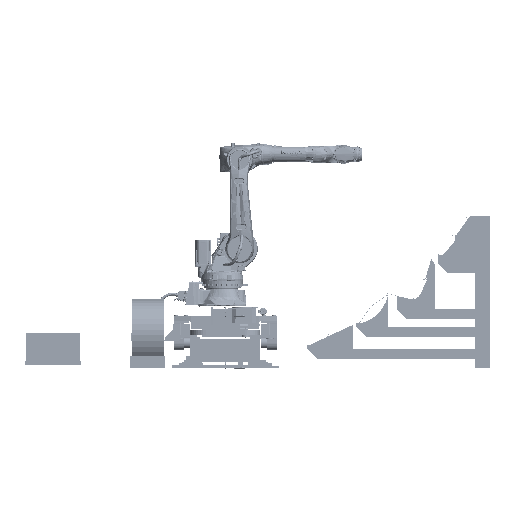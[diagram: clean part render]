
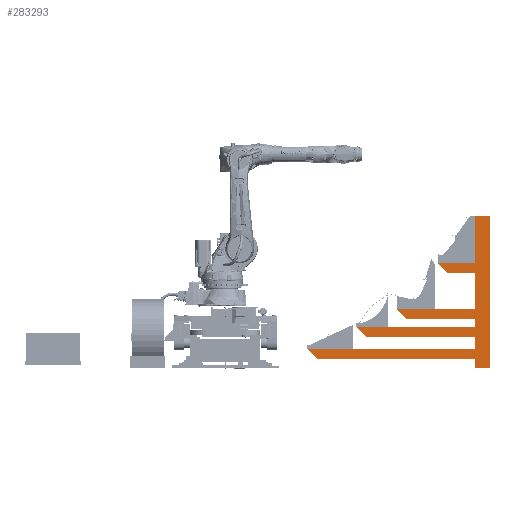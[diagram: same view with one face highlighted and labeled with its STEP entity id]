
A CAD part, front view. The second image highlights one B-rep face of the part: STEP entity #283293.
In plain terms, the highlighted planar face has unit normal (0, -1, 0).
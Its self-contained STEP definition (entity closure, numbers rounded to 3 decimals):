
#44590=LINE('',#889130,#60908);
#44593=LINE('',#889136,#60911);
#44596=LINE('',#889142,#60914);
#44599=LINE('',#889148,#60917);
#44602=LINE('',#889154,#60920);
#44605=LINE('',#889160,#60923);
#44608=LINE('',#889166,#60926);
#44611=LINE('',#889172,#60929);
#44614=LINE('',#889178,#60932);
#44617=LINE('',#889184,#60935);
#44620=LINE('',#889190,#60938);
#44623=LINE('',#889196,#60941);
#44626=LINE('',#889202,#60944);
#44629=LINE('',#889208,#60947);
#44632=LINE('',#889214,#60950);
#44635=LINE('',#889220,#60953);
#44638=LINE('',#889226,#60956);
#44641=LINE('',#889232,#60959);
#44644=LINE('',#889238,#60962);
#44647=LINE('',#889242,#60965);
#60908=VECTOR('',#374393,10.);
#60911=VECTOR('',#374398,10.);
#60914=VECTOR('',#374403,10.);
#60917=VECTOR('',#374408,10.);
#60920=VECTOR('',#374413,10.);
#60923=VECTOR('',#374418,10.);
#60926=VECTOR('',#374423,10.);
#60929=VECTOR('',#374428,10.);
#60932=VECTOR('',#374433,10.);
#60935=VECTOR('',#374438,10.);
#60938=VECTOR('',#374443,10.);
#60941=VECTOR('',#374448,10.);
#60944=VECTOR('',#374453,10.);
#60947=VECTOR('',#374458,10.);
#60950=VECTOR('',#374463,10.);
#60953=VECTOR('',#374468,10.);
#60956=VECTOR('',#374473,10.);
#60959=VECTOR('',#374478,10.);
#60962=VECTOR('',#374483,10.);
#60965=VECTOR('',#374488,10.);
#80371=FACE_OUTER_BOUND('',#97787,.T.);
#97787=EDGE_LOOP('',(#263924,#263925,#263926,#263927,#263928,#263929,#263930,
#263931,#263932,#263933,#263934,#263935,#263936,#263937,#263938,#263939,
#263940,#263941,#263942,#263943));
#135656=VERTEX_POINT('',#889127);
#135657=VERTEX_POINT('',#889129);
#135659=VERTEX_POINT('',#889135);
#135661=VERTEX_POINT('',#889141);
#135663=VERTEX_POINT('',#889147);
#135665=VERTEX_POINT('',#889153);
#135667=VERTEX_POINT('',#889159);
#135669=VERTEX_POINT('',#889165);
#135671=VERTEX_POINT('',#889171);
#135673=VERTEX_POINT('',#889177);
#135675=VERTEX_POINT('',#889183);
#135677=VERTEX_POINT('',#889189);
#135679=VERTEX_POINT('',#889195);
#135681=VERTEX_POINT('',#889201);
#135683=VERTEX_POINT('',#889207);
#135685=VERTEX_POINT('',#889213);
#135687=VERTEX_POINT('',#889219);
#135689=VERTEX_POINT('',#889225);
#135691=VERTEX_POINT('',#889231);
#135693=VERTEX_POINT('',#889237);
#178386=EDGE_CURVE('',#135657,#135656,#44590,.T.);
#178389=EDGE_CURVE('',#135659,#135657,#44593,.T.);
#178392=EDGE_CURVE('',#135661,#135659,#44596,.T.);
#178395=EDGE_CURVE('',#135663,#135661,#44599,.T.);
#178398=EDGE_CURVE('',#135665,#135663,#44602,.T.);
#178401=EDGE_CURVE('',#135667,#135665,#44605,.T.);
#178404=EDGE_CURVE('',#135669,#135667,#44608,.T.);
#178407=EDGE_CURVE('',#135671,#135669,#44611,.T.);
#178410=EDGE_CURVE('',#135673,#135671,#44614,.T.);
#178413=EDGE_CURVE('',#135675,#135673,#44617,.T.);
#178416=EDGE_CURVE('',#135677,#135675,#44620,.T.);
#178419=EDGE_CURVE('',#135679,#135677,#44623,.T.);
#178422=EDGE_CURVE('',#135681,#135679,#44626,.T.);
#178425=EDGE_CURVE('',#135683,#135681,#44629,.T.);
#178428=EDGE_CURVE('',#135685,#135683,#44632,.T.);
#178431=EDGE_CURVE('',#135687,#135685,#44635,.T.);
#178434=EDGE_CURVE('',#135689,#135687,#44638,.T.);
#178437=EDGE_CURVE('',#135691,#135689,#44641,.T.);
#178440=EDGE_CURVE('',#135693,#135691,#44644,.T.);
#178443=EDGE_CURVE('',#135656,#135693,#44647,.T.);
#263924=ORIENTED_EDGE('',*,*,#178443,.T.);
#263925=ORIENTED_EDGE('',*,*,#178440,.T.);
#263926=ORIENTED_EDGE('',*,*,#178437,.T.);
#263927=ORIENTED_EDGE('',*,*,#178434,.T.);
#263928=ORIENTED_EDGE('',*,*,#178431,.T.);
#263929=ORIENTED_EDGE('',*,*,#178428,.T.);
#263930=ORIENTED_EDGE('',*,*,#178425,.T.);
#263931=ORIENTED_EDGE('',*,*,#178422,.T.);
#263932=ORIENTED_EDGE('',*,*,#178419,.T.);
#263933=ORIENTED_EDGE('',*,*,#178416,.T.);
#263934=ORIENTED_EDGE('',*,*,#178413,.T.);
#263935=ORIENTED_EDGE('',*,*,#178410,.T.);
#263936=ORIENTED_EDGE('',*,*,#178407,.T.);
#263937=ORIENTED_EDGE('',*,*,#178404,.T.);
#263938=ORIENTED_EDGE('',*,*,#178401,.T.);
#263939=ORIENTED_EDGE('',*,*,#178398,.T.);
#263940=ORIENTED_EDGE('',*,*,#178395,.T.);
#263941=ORIENTED_EDGE('',*,*,#178392,.T.);
#263942=ORIENTED_EDGE('',*,*,#178389,.T.);
#263943=ORIENTED_EDGE('',*,*,#178386,.T.);
#268523=PLANE('',#308430);
#283293=ADVANCED_FACE('',(#80371),#268523,.T.);
#308430=AXIS2_PLACEMENT_3D('',#889244,#374491,#374492);
#374393=DIRECTION('',(0.707,0.,-0.707));
#374398=DIRECTION('',(-1.,0.,0.));
#374403=DIRECTION('',(0.,0.,-1.));
#374408=DIRECTION('',(1.,0.,0.));
#374413=DIRECTION('',(0.707,0.,-0.707));
#374418=DIRECTION('',(-1.,0.,0.));
#374423=DIRECTION('',(0.,0.,-1.));
#374428=DIRECTION('',(-1.,0.,0.));
#374433=DIRECTION('',(0.,0.,1.));
#374438=DIRECTION('',(1.,0.,0.));
#374443=DIRECTION('',(0.,0.,-1.));
#374448=DIRECTION('',(1.,0.,0.));
#374453=DIRECTION('',(0.707,0.,-0.707));
#374458=DIRECTION('',(-1.,0.,0.));
#374463=DIRECTION('',(0.,0.,-1.));
#374468=DIRECTION('',(1.,0.,0.));
#374473=DIRECTION('',(0.707,0.,-0.707));
#374478=DIRECTION('',(-1.,0.,0.));
#374483=DIRECTION('',(0.,0.,-1.));
#374488=DIRECTION('',(1.,0.,0.));
#374491=DIRECTION('center_axis',(0.,-1.,0.));
#374492=DIRECTION('ref_axis',(0.,0.,-1.));
#889127=CARTESIAN_POINT('',(1935.52,-3071.877,371.177));
#889129=CARTESIAN_POINT('',(1835.52,-3071.877,471.177));
#889130=CARTESIAN_POINT('',(1835.52,-3071.877,471.177));
#889135=CARTESIAN_POINT('',(2615.005,-3071.877,471.177));
#889136=CARTESIAN_POINT('',(1835.52,-3071.877,471.177));
#889141=CARTESIAN_POINT('',(2615.005,-3071.877,835.975));
#889142=CARTESIAN_POINT('',(2615.005,-3071.877,1404.483));
#889147=CARTESIAN_POINT('',(2343.698,-3071.877,835.975));
#889148=CARTESIAN_POINT('',(2615.005,-3071.877,835.975));
#889153=CARTESIAN_POINT('',(2243.698,-3071.877,935.975));
#889154=CARTESIAN_POINT('',(2243.698,-3071.877,935.975));
#889159=CARTESIAN_POINT('',(2615.005,-3071.877,935.975));
#889160=CARTESIAN_POINT('',(2615.005,-3071.877,935.975));
#889165=CARTESIAN_POINT('',(2615.005,-3071.877,1404.483));
#889166=CARTESIAN_POINT('',(2615.005,-3071.877,1404.483));
#889171=CARTESIAN_POINT('',(2765.005,-3071.877,1404.483));
#889172=CARTESIAN_POINT('',(2765.005,-3071.877,1404.483));
#889177=CARTESIAN_POINT('',(2765.005,-3071.877,-113.));
#889178=CARTESIAN_POINT('',(2765.005,-3071.877,1404.483));
#889183=CARTESIAN_POINT('',(2615.005,-3071.877,-113.));
#889184=CARTESIAN_POINT('',(2615.005,-3071.877,-113.));
#889189=CARTESIAN_POINT('',(2615.005,-3071.877,-21.381));
#889190=CARTESIAN_POINT('',(2615.005,-3071.877,1404.483));
#889195=CARTESIAN_POINT('',(1043.571,-3071.877,-21.381));
#889196=CARTESIAN_POINT('',(1043.571,-3071.877,-21.381));
#889201=CARTESIAN_POINT('',(943.571,-3071.877,78.619));
#889202=CARTESIAN_POINT('',(943.571,-3071.877,78.619));
#889207=CARTESIAN_POINT('',(2615.005,-3071.877,78.619));
#889208=CARTESIAN_POINT('',(943.571,-3071.877,78.619));
#889213=CARTESIAN_POINT('',(2615.005,-3071.877,192.851));
#889214=CARTESIAN_POINT('',(2615.005,-3071.877,1404.483));
#889219=CARTESIAN_POINT('',(1534.995,-3071.877,192.851));
#889220=CARTESIAN_POINT('',(1534.995,-3071.877,192.851));
#889225=CARTESIAN_POINT('',(1434.995,-3071.877,292.851));
#889226=CARTESIAN_POINT('',(1434.995,-3071.877,292.851));
#889231=CARTESIAN_POINT('',(2615.005,-3071.877,292.851));
#889232=CARTESIAN_POINT('',(1434.995,-3071.877,292.851));
#889237=CARTESIAN_POINT('',(2615.005,-3071.877,371.177));
#889238=CARTESIAN_POINT('',(2615.005,-3071.877,1404.483));
#889242=CARTESIAN_POINT('',(1935.52,-3071.877,371.177));
#889244=CARTESIAN_POINT('Origin',(1854.288,-3071.877,645.741));
